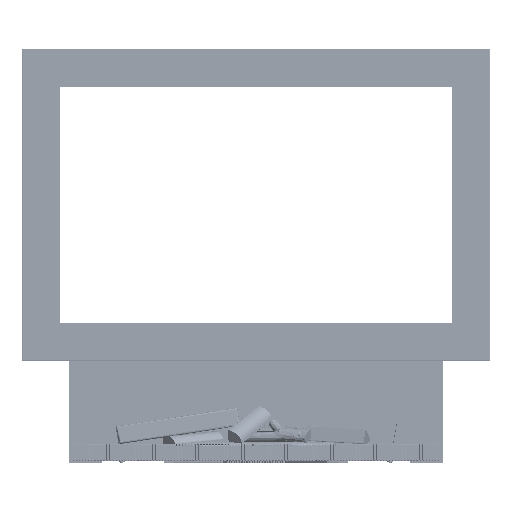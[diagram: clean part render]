
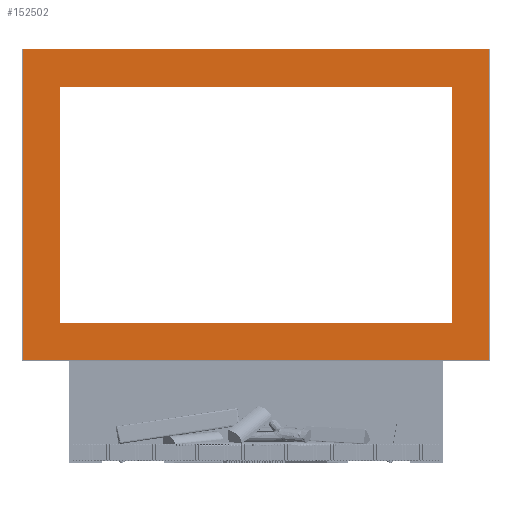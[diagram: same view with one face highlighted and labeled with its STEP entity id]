
A CAD part, top view. The second image highlights one B-rep face of the part: STEP entity #152502.
In plain terms, the highlighted planar face has unit normal (0, 0, 1) as drawn and (0, 0, -1) by its records, which use the part's own axes.
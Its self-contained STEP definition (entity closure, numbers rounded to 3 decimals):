
#5694 = PLANE ( 'NONE',  #434918 ) ;
#8261 = EDGE_CURVE ( 'NONE', #409844, #85952, #13981, .T. ) ;
#13981 = LINE ( 'NONE', #318493, #251741 ) ;
#18435 = CARTESIAN_POINT ( 'NONE',  ( -767., -610., 0. ) ) ;
#23327 = DIRECTION ( 'NONE',  ( -1., 0., 0. ) ) ;
#23603 = CARTESIAN_POINT ( 'NONE',  ( 767., -1072., 0. ) ) ;
#30221 = VERTEX_POINT ( 'NONE', #189977 ) ;
#43898 = VERTEX_POINT ( 'NONE', #61884 ) ;
#48766 = ORIENTED_EDGE ( 'NONE', *, *, #248191, .T. ) ;
#61884 = CARTESIAN_POINT ( 'NONE',  ( -913., -2., 0. ) ) ;
#72923 = FACE_OUTER_BOUND ( 'NONE', #363528, .T. ) ;
#85952 = VERTEX_POINT ( 'NONE', #204715 ) ;
#88189 = EDGE_CURVE ( 'NONE', #43898, #127349, #404977, .T. ) ;
#89728 = DIRECTION ( 'NONE',  ( 0., 1., 0. ) ) ;
#94111 = VECTOR ( 'NONE', #214966, 1000. ) ;
#98333 = DIRECTION ( 'NONE',  ( 1., 0., 0. ) ) ;
#102048 = VECTOR ( 'NONE', #238839, 1000. ) ;
#106098 = VECTOR ( 'NONE', #98333, 1000. ) ;
#109758 = CARTESIAN_POINT ( 'NONE',  ( -913., 0., 0. ) ) ;
#110703 = ORIENTED_EDGE ( 'NONE', *, *, #8261, .T. ) ;
#119189 = LINE ( 'NONE', #18435, #321735 ) ;
#121082 = LINE ( 'NONE', #289049, #376128 ) ;
#127349 = VERTEX_POINT ( 'NONE', #276042 ) ;
#131452 = CARTESIAN_POINT ( 'NONE',  ( 913., -610., 0. ) ) ;
#146997 = CARTESIAN_POINT ( 'NONE',  ( 0., -1072., 0. ) ) ;
#152502 = ADVANCED_FACE ( 'NONE', ( #379609, #72923 ), #5694, .T. ) ;
#154052 = EDGE_LOOP ( 'NONE', ( #350365, #321828, #48766, #273824 ) ) ;
#154211 = EDGE_CURVE ( 'NONE', #228046, #266758, #119189, .T. ) ;
#161307 = CARTESIAN_POINT ( 'NONE',  ( 913., -1218., 0. ) ) ;
#164051 = VERTEX_POINT ( 'NONE', #23603 ) ;
#189977 = CARTESIAN_POINT ( 'NONE',  ( 767., -148., 0. ) ) ;
#190833 = DIRECTION ( 'NONE',  ( 0., -1., 0. ) ) ;
#200620 = ORIENTED_EDGE ( 'NONE', *, *, #307162, .T. ) ;
#204715 = CARTESIAN_POINT ( 'NONE',  ( -913., -1218., 0. ) ) ;
#214966 = DIRECTION ( 'NONE',  ( 0., 1., 0. ) ) ;
#215594 = DIRECTION ( 'NONE',  ( -1., 0., 0. ) ) ;
#228046 = VERTEX_POINT ( 'NONE', #271526 ) ;
#234916 = CARTESIAN_POINT ( 'NONE',  ( 915., -2., 0. ) ) ;
#236281 = CARTESIAN_POINT ( 'NONE',  ( -767., -1072., 0. ) ) ;
#238839 = DIRECTION ( 'NONE',  ( 0., -1., 0. ) ) ;
#241650 = EDGE_CURVE ( 'NONE', #30221, #228046, #384617, .T. ) ;
#247791 = DIRECTION ( 'NONE',  ( 1., 0., 0. ) ) ;
#248191 = EDGE_CURVE ( 'NONE', #266758, #164051, #420081, .T. ) ;
#251741 = VECTOR ( 'NONE', #215594, 1000. ) ;
#266758 = VERTEX_POINT ( 'NONE', #236281 ) ;
#271526 = CARTESIAN_POINT ( 'NONE',  ( -767., -148., 0. ) ) ;
#273824 = ORIENTED_EDGE ( 'NONE', *, *, #355119, .T. ) ;
#276042 = CARTESIAN_POINT ( 'NONE',  ( 913., -2., 0. ) ) ;
#288275 = CARTESIAN_POINT ( 'NONE',  ( 0., -148., 0. ) ) ;
#289049 = CARTESIAN_POINT ( 'NONE',  ( 767., -610., 0. ) ) ;
#294096 = ORIENTED_EDGE ( 'NONE', *, *, #420017, .T. ) ;
#307162 = EDGE_CURVE ( 'NONE', #85952, #43898, #349294, .T. ) ;
#315244 = DIRECTION ( 'NONE',  ( -1., 0., 0. ) ) ;
#318493 = CARTESIAN_POINT ( 'NONE',  ( 0., -1218., 0. ) ) ;
#321735 = VECTOR ( 'NONE', #190833, 1000. ) ;
#321828 = ORIENTED_EDGE ( 'NONE', *, *, #154211, .T. ) ;
#337370 = LINE ( 'NONE', #131452, #102048 ) ;
#346012 = CARTESIAN_POINT ( 'NONE',  ( 0., -610., 0. ) ) ;
#349294 = LINE ( 'NONE', #109758, #94111 ) ;
#350365 = ORIENTED_EDGE ( 'NONE', *, *, #241650, .T. ) ;
#355119 = EDGE_CURVE ( 'NONE', #164051, #30221, #121082, .T. ) ;
#360347 = ORIENTED_EDGE ( 'NONE', *, *, #88189, .T. ) ;
#363528 = EDGE_LOOP ( 'NONE', ( #200620, #360347, #294096, #110703 ) ) ;
#367385 = VECTOR ( 'NONE', #247791, 1000. ) ;
#376128 = VECTOR ( 'NONE', #89728, 1000. ) ;
#379609 = FACE_BOUND ( 'NONE', #154052, .T. ) ;
#384617 = LINE ( 'NONE', #288275, #407395 ) ;
#390567 = DIRECTION ( 'NONE',  ( 0., 0., -1. ) ) ;
#404977 = LINE ( 'NONE', #234916, #106098 ) ;
#407395 = VECTOR ( 'NONE', #315244, 1000. ) ;
#409844 = VERTEX_POINT ( 'NONE', #161307 ) ;
#420017 = EDGE_CURVE ( 'NONE', #127349, #409844, #337370, .T. ) ;
#420081 = LINE ( 'NONE', #146997, #367385 ) ;
#434918 = AXIS2_PLACEMENT_3D ( 'NONE', #346012, #390567, #23327 ) ;
